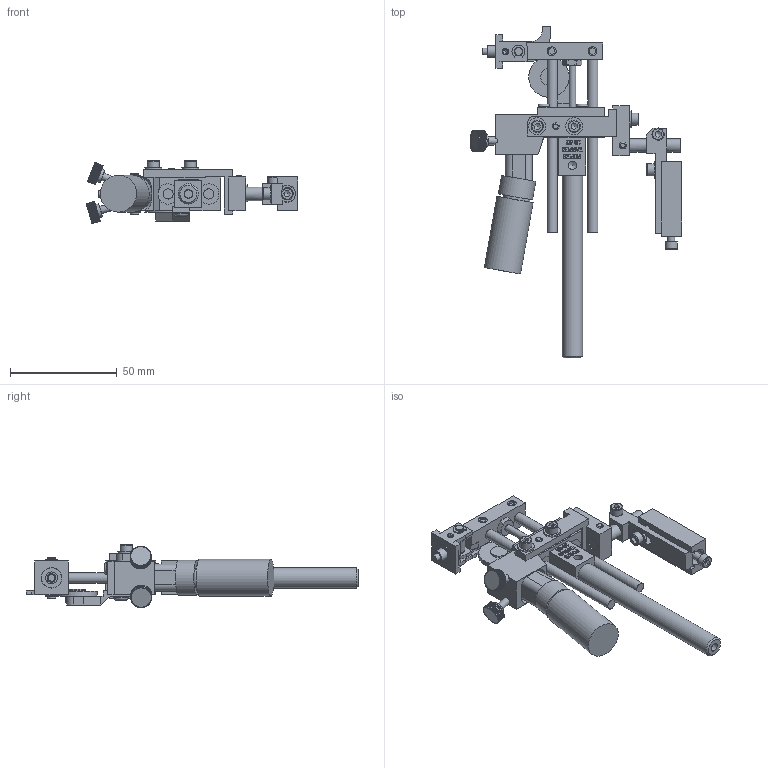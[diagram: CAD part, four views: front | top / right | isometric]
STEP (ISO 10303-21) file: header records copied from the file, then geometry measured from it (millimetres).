
FILE_DESCRIPTION((''),'2;1');
FILE_NAME('C:\Documents and Settings\Ron\My Documents\Inventor\Sprinter Drawing\Machines in Inventor\Model 22\Dot\1-eight\Ext Str\E1\Brkt\90\Model 22 ES 1 1-8 dot 90 deg w brkt.stp','2009-01-14T09:14:00',('Ron'),(''),'Autodesk Inventor 2008','Autodesk Inventor 2008','');
FILE_SCHEMA(('AUTOMOTIVE_DESIGN { 1 0 10303 214 1 1 1 1 }'));
Length unit declared in the file: inch
Products named in the file (1): Model 22 ES 1 1-8 dot  90 deg w brkt
Bounding box: 99.17 x 155.61 x 29.56 mm (x, y, z)
Volume: 59391.5 mm3; surface area: 35586.6 mm2
Topology: 34 solids, 34 shells, 4735 faces, 13095 edges, 8690 vertices
Faces by surface type: plane 2891, bspline 1290, cylinder 484, cone 56, torus 14
Full cylindrical faces by diameter (mm): 2.845 x3, 2.946 x2, 3.175 x5, 3.505 x7, 3.556 x2, 3.658 x2, 3.876 x1, 3.962 x9, 4.064 x1, 4.166 x3, 4.648 x2, 4.699 x1, 4.75 x1, 4.763 x2, 4.775 x2, 4.788 x1, 5.41 x2, 5.556 x1, 5.74 x6, 6.096 x1, 6.325 x2, 6.35 x3, 6.477 x1, 6.655 x1, 7.925 x4, 7.938 x1, 8.128 x1, 9.462 x1, 9.525 x1, 10.922 x1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
Entity records: 165332 total; most frequent: CARTESIAN_POINT 49052, ORIENTED_EDGE 25636, DIRECTION 18344, EDGE_CURVE 12818, VECTOR 9042, LINE 9042, VERTEX_POINT 8592, EDGE_LOOP 5258
